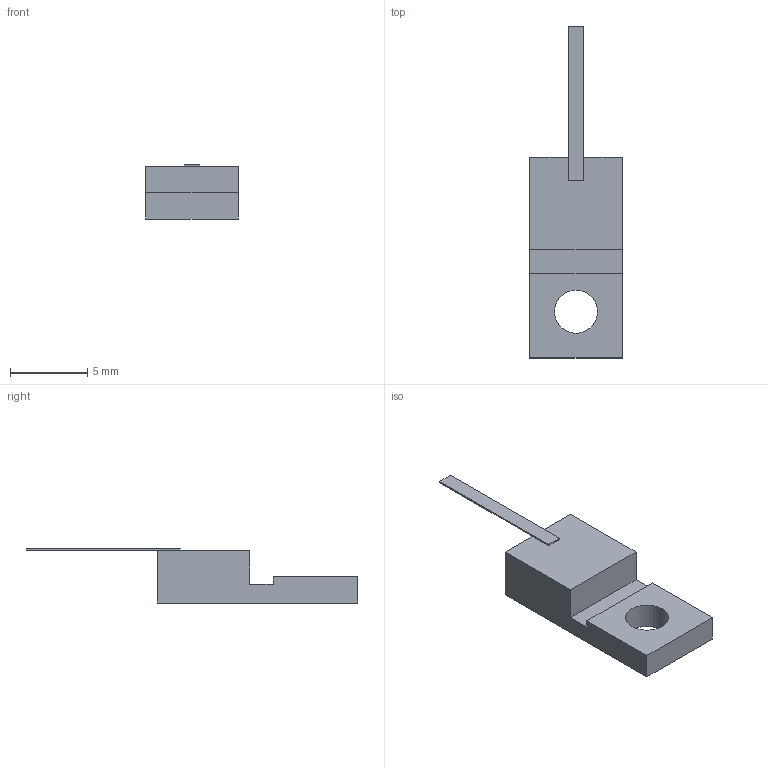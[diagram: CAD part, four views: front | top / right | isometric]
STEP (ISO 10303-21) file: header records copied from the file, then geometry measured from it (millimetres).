
FILE_DESCRIPTION(('STEP AP203'), '1');
FILE_NAME('Ð1-87-30-1.2', '', ('UNSPECIFIED'), ('UNSPECIFIED'), 'ASCON STEP Converter 1.6', 'ASCON Math Kernel', '');
FILE_SCHEMA(('CONFIG_CONTROL_DESIGN'));
Length unit declared in the file: millimetre
Bounding box: 6 x 21.5 x 3.5 mm (x, y, z)
Volume: 179.8 mm3; surface area: 287.7 mm2
Topology: 1 solids, 1 shells, 17 faces, 43 edges, 28 vertices
Faces by surface type: plane 16, cylinder 1
Full cylindrical faces by diameter (mm): 2.8 x1
Entity records: 682 total; most frequent: CARTESIAN_POINT 88, ORIENTED_EDGE 84, DIRECTION 80, EDGE_CURVE 42, LINE 40, VECTOR 40, VERTEX_POINT 28, AXIS2_PLACEMENT_3D 20
